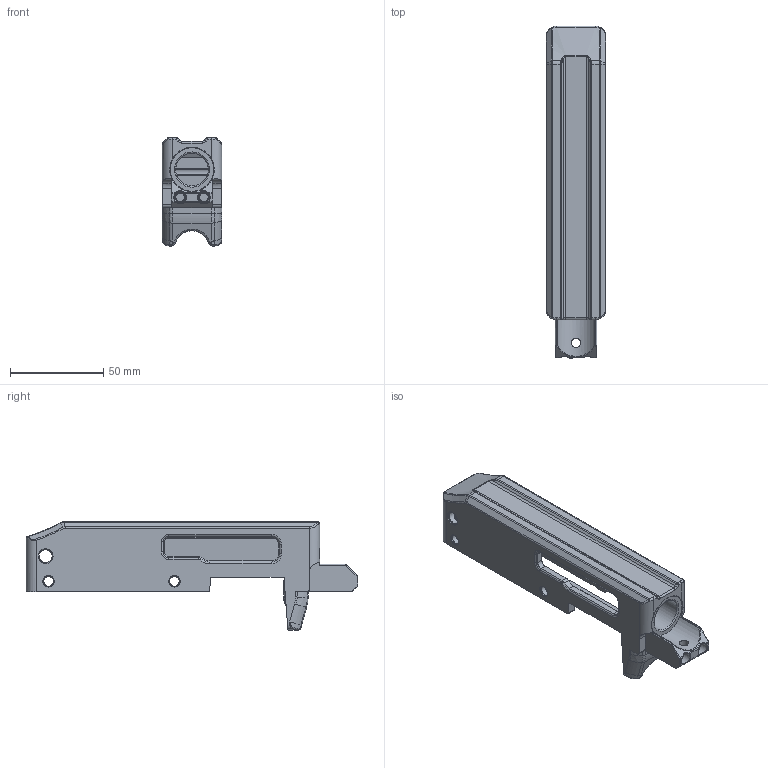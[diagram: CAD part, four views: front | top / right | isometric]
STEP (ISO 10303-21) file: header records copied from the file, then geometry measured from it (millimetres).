
FILE_DESCRIPTION(/* description */ (''),/* implementation_level */ '2;1');
FILE_NAME(/* name */ 'C:/Users/FFFTech/3D Objects/The Bad Stuff/Firearms Related/Firearms Parts/10-22 Parts/Receivers/L-X22 Receivers/STEP Files/Model I/L-X22 Model I.step',/* time_stamp */ '2021-08-08T17:00:22-04:00',/* author */ (''),/* organization */ (''),/* preprocessor_version */ 'ST-DEVELOPER v18.1',/* originating_system */ 'Autodesk Translation Framework v10.9.0.1377',/* authorisation */ '');
FILE_SCHEMA (('AUTOMOTIVE_DESIGN { 1 0 10303 214 3 1 1 }'));
Length unit declared in the file: millimetre
Products named in the file (1): LX22 Model I Receiver
Bounding box: 31.95 x 177.8 x 58.08 mm (x, y, z)
Volume: 80630.9 mm3; surface area: 35145.7 mm2
Topology: 1 solids, 1 shells, 397 faces, 1023 edges, 616 vertices
Faces by surface type: cylinder 122, bspline 109, plane 90, torus 48, cone 22, sphere 6
Full cylindrical faces by diameter (mm): 1.6 x1, 4.648 x2, 5 x1, 5.175 x4, 6.426 x2, 6.95 x1, 15.6 x1, 17.45 x1, 23.393 x1
Entity records: 14951 total; most frequent: CARTESIAN_POINT 5709, ORIENTED_EDGE 2022, DIRECTION 1827, EDGE_CURVE 1011, AXIS2_PLACEMENT_3D 729, VERTEX_POINT 616, EDGE_LOOP 419, FACE_OUTER_BOUND 397
